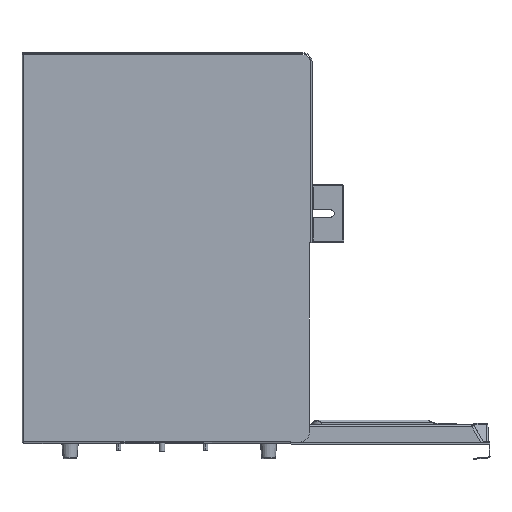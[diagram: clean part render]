
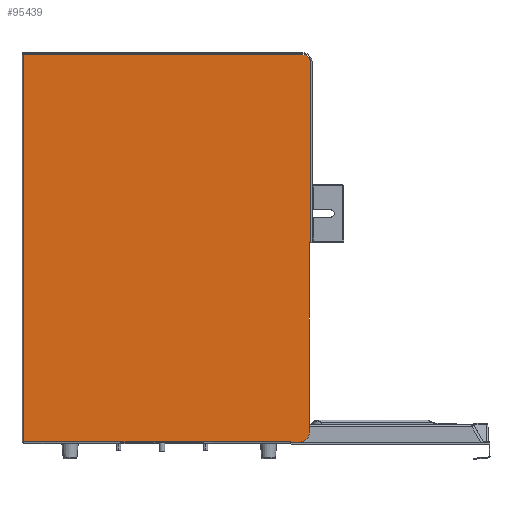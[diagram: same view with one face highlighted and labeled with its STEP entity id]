
A CAD part, left-side view. The second image highlights one B-rep face of the part: STEP entity #95439.
In plain terms, the highlighted planar face has unit normal (-1, 0, 0).
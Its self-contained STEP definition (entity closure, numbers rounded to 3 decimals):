
#7594 = ORIENTED_EDGE ( 'NONE', *, *, #9457, .T. ) ;
#7596 = ORIENTED_EDGE ( 'NONE', *, *, #9458, .F. ) ;
#7598 = ORIENTED_EDGE ( 'NONE', *, *, #9459, .T. ) ;
#7600 = ORIENTED_EDGE ( 'NONE', *, *, #9460, .F. ) ;
#7602 = ORIENTED_EDGE ( 'NONE', *, *, #9462, .T. ) ;
#7604 = ORIENTED_EDGE ( 'NONE', *, *, #9464, .T. ) ;
#7606 = ORIENTED_EDGE ( 'NONE', *, *, #9466, .T. ) ;
#7608 = ORIENTED_EDGE ( 'NONE', *, *, #9468, .T. ) ;
#7610 = ORIENTED_EDGE ( 'NONE', *, *, #9469, .T. ) ;
#7611 = ORIENTED_EDGE ( 'NONE', *, *, #9471, .T. ) ;
#7612 = ORIENTED_EDGE ( 'NONE', *, *, #9474, .T. ) ;
#7614 = ORIENTED_EDGE ( 'NONE', *, *, #9475, .T. ) ;
#9457 = EDGE_CURVE ( 'NONE', #97588, #97590, #11665, .T. ) ;
#9458 = EDGE_CURVE ( 'NONE', #97592, #97590, #11667, .T. ) ;
#9459 = EDGE_CURVE ( 'NONE', #97592, #97598, #11670, .T. ) ;
#9460 = EDGE_CURVE ( 'NONE', #97593, #97598, #11676, .T. ) ;
#9462 = EDGE_CURVE ( 'NONE', #97593, #97594, #11673, .T. ) ;
#9464 = EDGE_CURVE ( 'NONE', #97594, #97600, #11682, .T. ) ;
#9466 = EDGE_CURVE ( 'NONE', #97600, #97601, #11686, .T. ) ;
#9468 = EDGE_CURVE ( 'NONE', #97601, #97602, #11690, .T. ) ;
#9469 = EDGE_CURVE ( 'NONE', #97602, #97603, #11693, .T. ) ;
#9471 = EDGE_CURVE ( 'NONE', #97603, #97604, #11697, .T. ) ;
#9474 = EDGE_CURVE ( 'NONE', #97604, #97605, #11700, .T. ) ;
#9475 = EDGE_CURVE ( 'NONE', #97605, #97588, #11704, .T. ) ;
#11665 = LINE ( 'NONE', #26682, #11672 ) ;
#11667 = LINE ( 'NONE', #26679, #11675 ) ;
#11670 = CIRCLE ( 'NONE', #17491, 8. ) ;
#11672 = VECTOR ( 'NONE', #26693, 1000. ) ;
#11673 = LINE ( 'NONE', #26707, #11684 ) ;
#11675 = VECTOR ( 'NONE', #26698, 1000. ) ;
#11676 = LINE ( 'NONE', #26701, #11680 ) ;
#11680 = VECTOR ( 'NONE', #26696, 1000. ) ;
#11682 = LINE ( 'NONE', #26721, #11688 ) ;
#11684 = VECTOR ( 'NONE', #26717, 1000. ) ;
#11686 = LINE ( 'NONE', #26726, #11691 ) ;
#11688 = VECTOR ( 'NONE', #26724, 1000. ) ;
#11690 = LINE ( 'NONE', #26731, #11695 ) ;
#11691 = VECTOR ( 'NONE', #26729, 1000. ) ;
#11693 = LINE ( 'NONE', #26736, #11698 ) ;
#11695 = VECTOR ( 'NONE', #26734, 1000. ) ;
#11697 = LINE ( 'NONE', #26741, #11702 ) ;
#11698 = VECTOR ( 'NONE', #26739, 1000. ) ;
#11700 = CIRCLE ( 'NONE', #17492, 10.5 ) ;
#11702 = VECTOR ( 'NONE', #26744, 1000. ) ;
#11704 = LINE ( 'NONE', #26715, #11707 ) ;
#11707 = VECTOR ( 'NONE', #26705, 1000. ) ;
#12295 = FACE_OUTER_BOUND ( 'NONE', #102407, .T. ) ;
#13986 = AXIS2_PLACEMENT_3D ( 'NONE', #29959, #29968, #29969 ) ;
#17491 = AXIS2_PLACEMENT_3D ( 'NONE', #26709, #26711, #26713 ) ;
#17492 = AXIS2_PLACEMENT_3D ( 'NONE', #26751, #26753, #26755 ) ;
#26679 = CARTESIAN_POINT ( 'NONE',  ( 0., 0., 0. ) ) ;
#26682 = CARTESIAN_POINT ( 'NONE',  ( 0., 220.5, 0. ) ) ;
#26693 = DIRECTION ( 'NONE',  ( 0., 0., 1. ) ) ;
#26696 = DIRECTION ( 'NONE',  ( 0., 0., 1. ) ) ;
#26698 = DIRECTION ( 'NONE',  ( 0., -1., 0. ) ) ;
#26701 = CARTESIAN_POINT ( 'NONE',  ( 0., 428., 0. ) ) ;
#26705 = DIRECTION ( 'NONE',  ( 0., 1., 0. ) ) ;
#26707 = CARTESIAN_POINT ( 'NONE',  ( 0., 428., -316. ) ) ;
#26709 = CARTESIAN_POINT ( 'NONE',  ( 0., 420., -8. ) ) ;
#26711 = DIRECTION ( 'NONE',  ( -1., 0., 0. ) ) ;
#26713 = DIRECTION ( 'NONE',  ( 0., 0., 1. ) ) ;
#26715 = CARTESIAN_POINT ( 'NONE',  ( 0., 220.5, -1. ) ) ;
#26717 = DIRECTION ( 'NONE',  ( 0., -1., 0. ) ) ;
#26721 = CARTESIAN_POINT ( 'NONE',  ( 0., 0.8, -316. ) ) ;
#26724 = DIRECTION ( 'NONE',  ( 0., 0., 1. ) ) ;
#26726 = CARTESIAN_POINT ( 'NONE',  ( 0., 428., -22. ) ) ;
#26729 = DIRECTION ( 'NONE',  ( 0., 1., 0. ) ) ;
#26731 = CARTESIAN_POINT ( 'NONE',  ( 0., 1.4, 0. ) ) ;
#26734 = DIRECTION ( 'NONE',  ( 0., 0., 1. ) ) ;
#26736 = CARTESIAN_POINT ( 'NONE',  ( 0., 428., -21.4 ) ) ;
#26739 = DIRECTION ( 'NONE',  ( 0., -1., 0. ) ) ;
#26741 = CARTESIAN_POINT ( 'NONE',  ( 0., 0.5, -21.5 ) ) ;
#26744 = DIRECTION ( 'NONE',  ( 0., 0., 1. ) ) ;
#26751 = CARTESIAN_POINT ( 'NONE',  ( 0., 11., -11.5 ) ) ;
#26753 = DIRECTION ( 'NONE',  ( -1., 0., 0. ) ) ;
#26755 = DIRECTION ( 'NONE',  ( 0., 0., -1. ) ) ;
#29957 = PLANE ( 'NONE',  #13986 ) ;
#29959 = CARTESIAN_POINT ( 'NONE',  ( 0., 428., 0. ) ) ;
#29968 = DIRECTION ( 'NONE',  ( -1., 0., 0. ) ) ;
#29969 = DIRECTION ( 'NONE',  ( 0., 0., 1. ) ) ;
#36939 = CARTESIAN_POINT ( 'NONE',  ( 0., 220.5, -1. ) ) ;
#36941 = CARTESIAN_POINT ( 'NONE',  ( 0., 220.5, 0. ) ) ;
#36943 = CARTESIAN_POINT ( 'NONE',  ( 0., 420., 0. ) ) ;
#36944 = CARTESIAN_POINT ( 'NONE',  ( 0., 428., -316. ) ) ;
#36945 = CARTESIAN_POINT ( 'NONE',  ( 0., 0.8, -316. ) ) ;
#36949 = CARTESIAN_POINT ( 'NONE',  ( 0., 428., -8. ) ) ;
#36951 = CARTESIAN_POINT ( 'NONE',  ( 0., 0.8, -22. ) ) ;
#36952 = CARTESIAN_POINT ( 'NONE',  ( 0., 1.4, -22. ) ) ;
#36953 = CARTESIAN_POINT ( 'NONE',  ( 0., 1.4, -21.4 ) ) ;
#36954 = CARTESIAN_POINT ( 'NONE',  ( 0., 0.5, -21.4 ) ) ;
#36955 = CARTESIAN_POINT ( 'NONE',  ( 0., 0.5, -11.5 ) ) ;
#36956 = CARTESIAN_POINT ( 'NONE',  ( 0., 11., -1. ) ) ;
#95439 = ADVANCED_FACE ( 'NONE', ( #12295 ), #29957, .T. ) ;
#97588 = VERTEX_POINT ( 'NONE', #36939 ) ;
#97590 = VERTEX_POINT ( 'NONE', #36941 ) ;
#97592 = VERTEX_POINT ( 'NONE', #36943 ) ;
#97593 = VERTEX_POINT ( 'NONE', #36944 ) ;
#97594 = VERTEX_POINT ( 'NONE', #36945 ) ;
#97598 = VERTEX_POINT ( 'NONE', #36949 ) ;
#97600 = VERTEX_POINT ( 'NONE', #36951 ) ;
#97601 = VERTEX_POINT ( 'NONE', #36952 ) ;
#97602 = VERTEX_POINT ( 'NONE', #36953 ) ;
#97603 = VERTEX_POINT ( 'NONE', #36954 ) ;
#97604 = VERTEX_POINT ( 'NONE', #36955 ) ;
#97605 = VERTEX_POINT ( 'NONE', #36956 ) ;
#102407 = EDGE_LOOP ( 'NONE', ( #7594, #7596, #7598, #7600, #7602, #7604, #7606, #7608, #7610, #7611, #7612, #7614 ) ) ;
